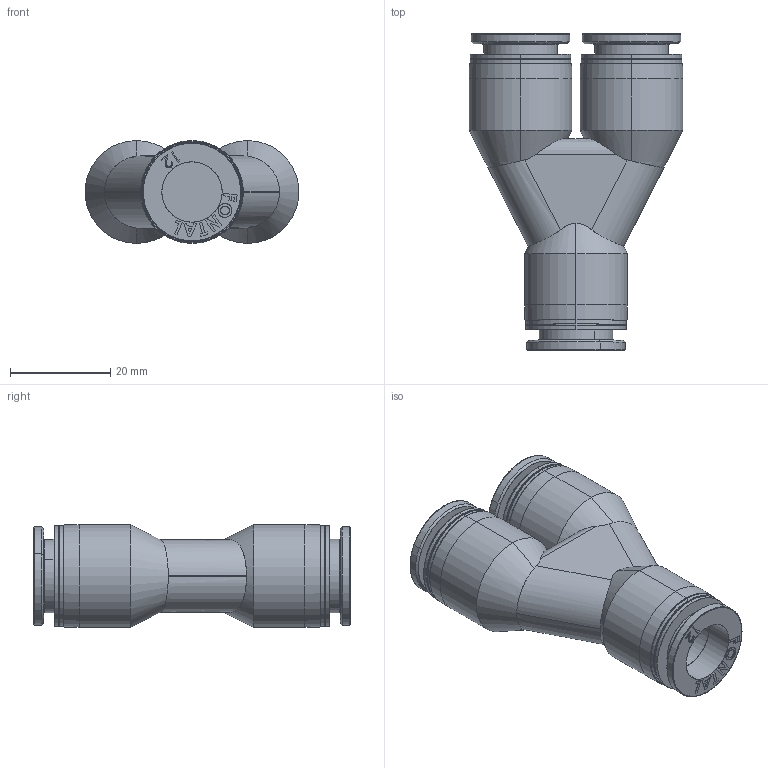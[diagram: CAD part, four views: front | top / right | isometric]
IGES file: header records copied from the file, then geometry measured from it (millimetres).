
Start section: SolidWorks IGES file using analytic representation for surfaces
Global section: file name: D:\Custom\3D繪製\ADDITIONAL\FPY\FPY12.IGS, ; native system: SolidWorks 2014; preprocessor: SolidWorks 2014; author: Chieh_Lu; date: 160115.050911; units: millimetre
Bounding box: 42.6 x 63.16 x 20.5 mm (x, y, z)
Surface area: 11119.8 mm2 (no closed solid volume)
Topology: 0 solids, 0 shells, 366 faces, 4319 edges, 4319 vertices
Faces by surface type: bspline 288, revolution 78
